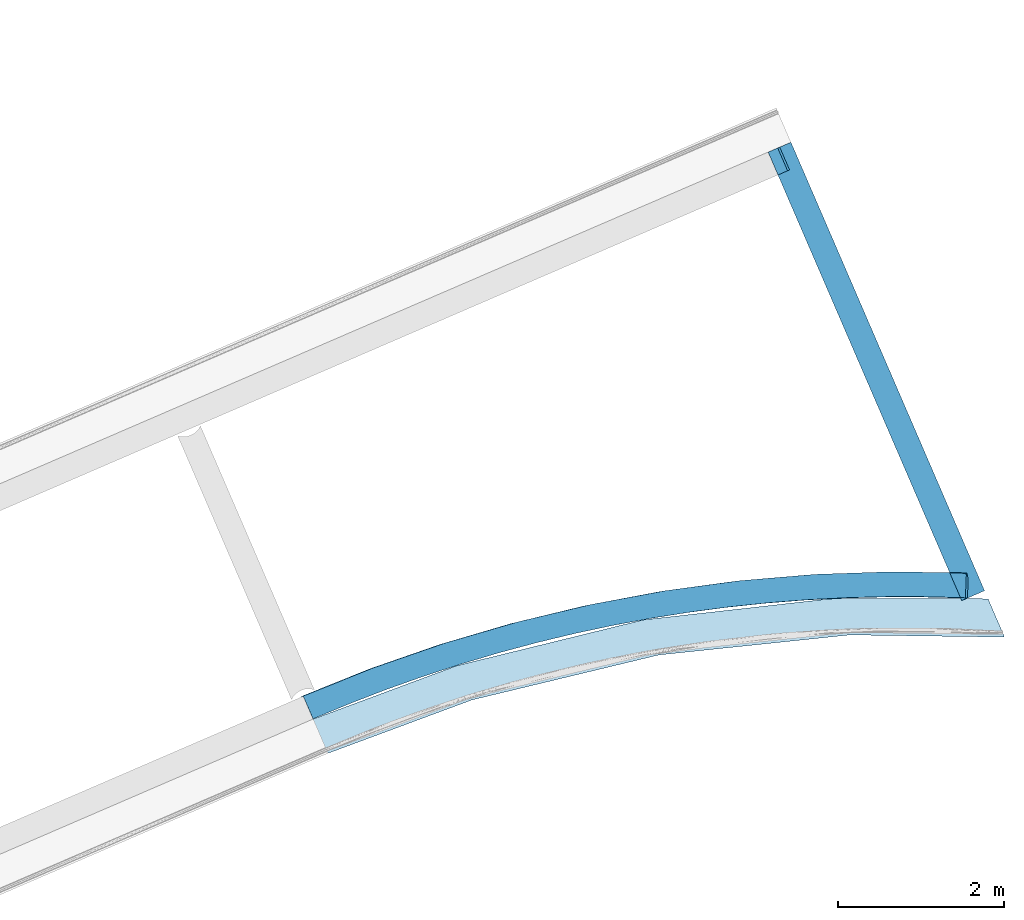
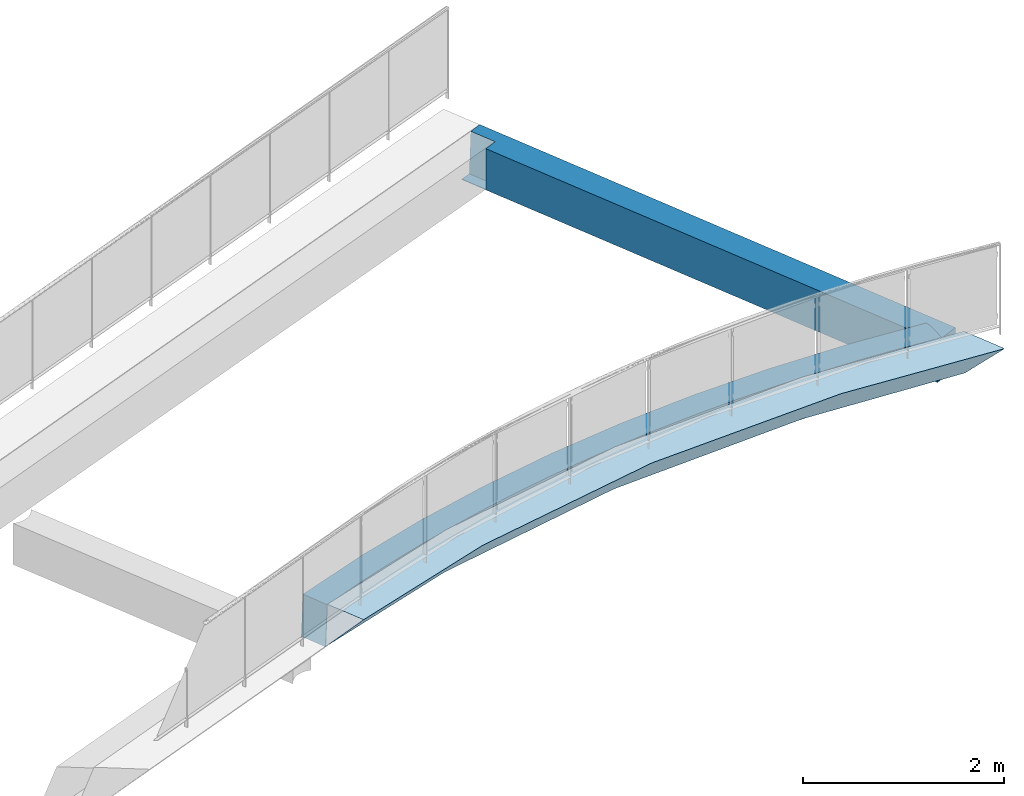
# One storey, part 24 of 24: 2 beams, 1 slab.
"""IFC4 building model written with IfcOpenShell, lengths in metres."""

from ifc_helpers import new_model, entity, si_unit, converted_unit, derived_unit, direction, frame, origin, place, context, subcontext, project, spatial, polygons, source, transform, mapped, material, type_object, type_shapes, element, save


model = new_model("IFC4")

# Units and contexts
model_context = context("Model", 3, precision=1e-05, world=origin(), true_north=direction((6.12323399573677e-17, 1.0)))
body_context = subcontext(model_context, "Body", "Model", "MODEL_VIEW")
ifc_project = project(units=[si_unit("LENGTHUNIT", "METRE"), si_unit("AREAUNIT", "SQUARE_METRE"), si_unit("VOLUMEUNIT", "CUBIC_METRE"), converted_unit("PLANEANGLEUNIT", "DEGREE", entity("IfcPlaneAngleMeasure", 0.0174532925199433), si_unit("PLANEANGLEUNIT", "RADIAN"), dimensions=[0, 0, 0, 0, 0, 0, 0]), si_unit("MASSUNIT", "GRAM", prefix="KILO"), derived_unit("MOMENTOFINERTIAUNIT", [(si_unit("LENGTHUNIT", "METRE"), 4)]), derived_unit("LINEARFORCEUNIT", [(si_unit("MASSUNIT", "GRAM", prefix="KILO"), 1), (si_unit("TIMEUNIT", "SECOND"), -2)]), derived_unit("WARPINGCONSTANTUNIT", [(si_unit("LENGTHUNIT", "METRE"), 6)]), derived_unit("THERMALTRANSMITTANCEUNIT", [(si_unit("MASSUNIT", "GRAM", prefix="KILO"), 1), (si_unit("THERMODYNAMICTEMPERATUREUNIT", "KELVIN"), -1), (si_unit("TIMEUNIT", "SECOND"), -3)]), derived_unit("USERDEFINED", [(si_unit("MASSUNIT", "GRAM", prefix="KILO"), 1), (si_unit("TIMEUNIT", "SECOND"), -2), (si_unit("THERMODYNAMICTEMPERATUREUNIT", "KELVIN"), -1)]), derived_unit("THERMALRESISTANCEUNIT", [(si_unit("MASSUNIT", "GRAM", prefix="KILO"), -1), (si_unit("TIMEUNIT", "SECOND"), 3), (si_unit("THERMODYNAMICTEMPERATUREUNIT", "KELVIN"), 1)])], contexts=[model_context])

# Site, building, storey
site_placement = place(None, origin())
site = spatial("IfcSite", under=ifc_project, at=site_placement, Name="Default", CompositionType="ELEMENT")
building_placement = place(site_placement, frame((12.6613425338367, -82.5732315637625, 317.15), z_axis=(0.0, 0.0, 1.0), x_axis=(-0.396377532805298, 0.918087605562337, 0.0)))
building = spatial("IfcBuilding", under=site, at=building_placement, Name="CESFAM Coyhaique", CompositionType="ELEMENT")
storey_placement = place(building_placement, frame((0.0, 0.0, 4.20000000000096)))
storey = spatial("IfcBuildingStorey", under=building, at=storey_placement, Name="Nivel 2", CompositionType="ELEMENT", Elevation=4.20000000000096)

# Beams
ifc_material = material(Name="HA")
beam_type_1 = type_object("IfcBeamType", Name="M_Concrete-Rectangular Beam:300 x 500mm", PredefinedType="BEAM", material=ifc_material)
shared_shape_1 = source(origin(), body_context, "Body", "Tessellation", [
    polygons([(0.271861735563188, 0.00159527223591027, 0.500951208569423), (0.201106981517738, 0.0356736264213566, 0.501838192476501), (0.00159527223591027, 0.131766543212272, 0.504339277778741), (0.0016235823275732, 0.131890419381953, 0.501838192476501), (0.00724754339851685, 0.156499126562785, 0.00498334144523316), (0.258136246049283, 0.0356609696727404, 0.00183819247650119), (0.277514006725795, 0.0263278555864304, 0.00159527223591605), (0.277511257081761, 0.0263158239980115, 0.00183819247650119), (0.275749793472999, 0.0096613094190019, 0.501394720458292), (0.279634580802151, 0.0177308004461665, 0.501838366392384), (0.654299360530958, 0.848842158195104, 0.547243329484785), (0.987095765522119, 1.69756937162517, 0.593046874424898), (1.27719778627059, 2.56180658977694, 0.639135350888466), (1.52388696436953, 3.4394134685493, 0.68539461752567), (1.72655235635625, 4.32821655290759, 0.731710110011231), (1.88469204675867, 5.22601465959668, 0.777967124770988), (1.99791439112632, 6.13058432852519, 0.824051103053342), (2.06593898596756, 7.03968532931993, 0.869847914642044), (2.08859736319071, 7.95106620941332, 0.915244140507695), (1.78861653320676, 7.95121663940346, 0.911856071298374), (1.78235450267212, 7.47543301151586, 0.888220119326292), (1.76351766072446, 6.99998743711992, 0.864458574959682), (1.73211914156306, 6.52521142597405, 0.840588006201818), (1.68818083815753, 6.05143602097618, 0.81662505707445), (1.63173338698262, 5.57899156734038, 0.792586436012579), (1.56281614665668, 5.10820748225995, 0.768488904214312), (1.48147717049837, 4.6394120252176, 0.744349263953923), (1.38777317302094, 4.17293206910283, 0.720184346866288), (1.28176949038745, 3.70909287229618, 0.696011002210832), (1.16354003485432, 3.24821785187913, 0.671846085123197), (1.03316724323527, 2.79062835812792, 0.647706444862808), (0.890742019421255, 2.3366434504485, 0.623608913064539), (0.73636367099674, 1.88657967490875, 0.599570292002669), (0.570139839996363, 1.4407508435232, 0.5756073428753), (0.392186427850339, 0.999467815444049, 0.551736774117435), (0.202627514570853, 0.563038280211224, 0.527975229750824), (1.79426880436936, 7.97594922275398, 0.412500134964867), (1.7880946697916, 7.50350856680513, 0.389030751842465), (1.76952178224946, 7.03139894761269, 0.365437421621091), (1.73856291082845, 6.55994492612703, 0.341736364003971), (1.69523934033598, 6.08947062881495, 0.31794387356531), (1.63958085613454, 5.62029950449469, 0.294076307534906), (1.57162572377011, 5.15275410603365, 0.270150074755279), (1.4914206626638, 4.68715586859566, 0.246181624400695), (1.39902081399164, 4.22382488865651, 0.222187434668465), (1.29448970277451, 3.76307970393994, 0.19818400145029), (1.17789919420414, 3.30523707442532, 0.174187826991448), (1.04932944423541, 2.85061176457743, 0.15021540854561), (0.908868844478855, 2.39951632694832, 0.12628322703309), (0.756613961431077, 1.95226088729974, 0.102407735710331), (0.592669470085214, 1.50915293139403, 0.0786053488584), (0.417148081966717, 1.07049709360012, 0.0548924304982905), (0.230170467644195, 0.636594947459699, 0.0312852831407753), (0.0318661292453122, 0.207746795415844, 0.00780024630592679), (0.019578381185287, 0.182115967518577, 0.00639169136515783), (2.09424963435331, 7.97579879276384, 0.415888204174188), (2.07259142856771, 7.08472361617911, 0.371509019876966), (2.00756488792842, 6.1957800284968, 0.326744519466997), (1.89932399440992, 5.31107245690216, 0.28170067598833), (1.74812502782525, 4.43269529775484, 0.236484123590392), (1.55432595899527, 3.56272795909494, 0.191201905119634), (1.3183856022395, 2.703229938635, 0.145961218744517), (1.04086252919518, 1.85623594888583, 0.100869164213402), (0.722413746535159, 1.02375110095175, 0.0560324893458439), (0.363800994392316, 0.207763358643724, 0.011558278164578), (0.32195896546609, 0.119140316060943, 0.0066952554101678), (0.279644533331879, 0.0307465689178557, 0.0018382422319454), (0.278579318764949, 0.0285369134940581, 0.00171674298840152), (1.95705717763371, 7.72347950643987, 0.401838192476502), (1.82142152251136, 7.7544770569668, 0.401838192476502), (1.86411758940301, 7.73467655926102, 0.401340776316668), (1.90999862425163, 7.7241911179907, 0.401340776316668), (1.91000210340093, 7.72419069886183, 0.401838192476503), (1.8641194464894, 7.73467592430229, 0.401838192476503), (1.92447770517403, 7.72397216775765, 0.401493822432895), (1.92438603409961, 7.72397329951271, 0.401838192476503), (1.88705810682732, 7.72943383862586, 0.401340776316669), (1.88706077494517, 7.72943331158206, 0.401838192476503), (1.87559011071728, 7.73205461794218, 0.401838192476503), (1.87558784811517, 7.73205519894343, 0.401340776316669), (1.89852836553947, 7.72681247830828, 0.401340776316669), (1.89853143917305, 7.72681200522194, 0.401838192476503), (1.89279610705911, 7.728122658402, 0.401838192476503), (1.8927932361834, 7.72812315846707, 0.401340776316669), (1.91723816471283, 7.72408164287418, 0.401417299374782), (1.91719406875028, 7.72408199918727, 0.401838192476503), (1.91359808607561, 7.72413634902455, 0.401838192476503), (1.91361839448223, 7.72413638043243, 0.401379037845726), (1.88132544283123, 7.73074396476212, 0.401838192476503), (1.88132297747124, 7.73074451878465, 0.401340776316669), (1.88419054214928, 7.73008917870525, 0.401340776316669), (1.86985477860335, 7.73336527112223, 0.401838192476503), (1.86985271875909, 7.73336587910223, 0.401340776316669), (1.87272028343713, 7.73271053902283, 0.401340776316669), (1.90426677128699, 7.72550135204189, 0.401838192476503), (1.90426349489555, 7.72550179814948, 0.401340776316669), (1.90713105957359, 7.72484645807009, 0.401340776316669), (1.92079005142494, 7.72402764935, 0.401838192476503), (1.92085793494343, 7.72402690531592, 0.401455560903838), (1.92266782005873, 7.72399953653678, 0.401474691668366), (1.89566080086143, 7.72746781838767, 0.401340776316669), (1.89566377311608, 7.72746733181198, 0.401838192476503), (1.88992567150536, 7.72877849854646, 0.401340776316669), (1.88992844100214, 7.72877798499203, 0.401838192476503), (1.87845541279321, 7.73139985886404, 0.401340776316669), (1.87845777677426, 7.73139929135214, 0.401838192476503), (1.86698515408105, 7.73402121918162, 0.401340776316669), (1.86698711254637, 7.73402059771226, 0.401838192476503), (1.90139593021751, 7.72615713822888, 0.401340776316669), (1.90139910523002, 7.72615667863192, 0.401838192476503), (1.85098076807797, 7.74076882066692, 0.401493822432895), (1.85106398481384, 7.74073038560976, 0.401838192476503), (1.8362427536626, 7.74760372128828, 0.401838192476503), (1.83620114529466, 7.74762293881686, 0.401666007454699), (1.84359095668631, 7.74419587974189, 0.401579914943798), (1.84365336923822, 7.74416705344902, 0.401838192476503), (1.83994806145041, 7.74588538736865, 0.401838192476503), (1.83989605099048, 7.74590940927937, 0.401622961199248), (1.85759171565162, 7.73770315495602, 0.401838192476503), (1.85754917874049, 7.73772268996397, 0.401417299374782), (1.86083338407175, 7.73619962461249, 0.401379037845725), (1.86085558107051, 7.73618953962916, 0.401838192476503), (1.84728586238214, 7.74248235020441, 0.401536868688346), (1.84735867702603, 7.74244871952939, 0.401838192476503), (1.84550602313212, 7.7433078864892, 0.401838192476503), (1.84543840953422, 7.74333911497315, 0.401558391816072), (1.83804859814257, 7.74676617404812, 0.401644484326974), (1.8380954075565, 7.74674455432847, 0.401838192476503), (1.83716908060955, 7.74717413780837, 0.401838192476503), (1.85432785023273, 7.73921677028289, 0.401838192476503), (1.85426497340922, 7.73924575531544, 0.401455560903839), (1.85590707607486, 7.73848422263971, 0.401436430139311), (1.8417435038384, 7.74505264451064, 0.401601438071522), (1.84180071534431, 7.74502622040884, 0.401838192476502), (1.84087438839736, 7.74545580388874, 0.401838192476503), (1.84921133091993, 7.74158955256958, 0.401838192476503), (1.84913331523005, 7.74162558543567, 0.40151534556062), (1.94072160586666, 7.7237264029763, 0.401838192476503), (1.94076744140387, 7.72372583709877, 0.401666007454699), (1.94891230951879, 7.72360267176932, 0.401752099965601), (1.94888939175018, 7.72360295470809, 0.401838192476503), (1.93255381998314, 7.7238498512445, 0.401838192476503), (1.93262257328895, 7.72384900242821, 0.401579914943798), (1.93669500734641, 7.72378741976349, 0.401622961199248), (1.9366377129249, 7.7237881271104, 0.401838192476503), (1.94483987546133, 7.72366425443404, 0.40170905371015), (1.94480549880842, 7.72366467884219, 0.401838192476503), (1.94276355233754, 7.72369554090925, 0.401838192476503), (1.9428036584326, 7.72369504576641, 0.401687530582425), (1.94687609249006, 7.72363346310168, 0.401730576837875), (1.9468474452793, 7.72363381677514, 0.401838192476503), (1.94582647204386, 7.72364924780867, 0.401838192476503), (1.9458579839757, 7.72364885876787, 0.401719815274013), (1.92855013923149, 7.72391058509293, 0.401536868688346), (1.92846992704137, 7.72391157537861, 0.401838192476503), (1.92642798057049, 7.72394243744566, 0.401838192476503), (1.93873122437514, 7.72375662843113, 0.401644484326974), (1.93867965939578, 7.72375726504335, 0.401838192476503), (1.93765868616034, 7.72377269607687, 0.401838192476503), (1.93459576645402, 7.72381898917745, 0.401838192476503), (1.93465879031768, 7.72381821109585, 0.401601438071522), (1.93567689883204, 7.72380281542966, 0.401612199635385), (1.93058635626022, 7.72387979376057, 0.401558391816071), (1.93051187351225, 7.72388071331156, 0.401838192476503), (1.92949090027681, 7.72389614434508, 0.401838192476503), (1.8841931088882, 7.73008863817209, 0.401838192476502), (1.87272244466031, 7.7327099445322, 0.401838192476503), (1.90713443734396, 7.72484602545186, 0.401838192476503), (1.82883213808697, 7.75104038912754, 0.401838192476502), (1.82881133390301, 7.75104999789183, 0.401752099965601), (1.83250623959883, 7.74933646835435, 0.40170905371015), (1.83253744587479, 7.74932205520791, 0.401838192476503), (1.83068479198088, 7.75018122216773, 0.401838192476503), (1.83065878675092, 7.75019323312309, 0.401730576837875), (1.83158251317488, 7.74976485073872, 0.401719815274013), (1.83161111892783, 7.74975163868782, 0.401838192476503), (1.83439009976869, 7.7484628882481, 0.401838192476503), (1.83435369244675, 7.74847970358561, 0.401687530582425), (1.8352774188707, 7.74805132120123, 0.401676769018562), (1.95297328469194, 7.72354123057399, 0.401838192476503), (1.95298474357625, 7.7235410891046, 0.401795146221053), (1.95502096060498, 7.72351029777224, 0.401816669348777), (1.95501523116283, 7.72351036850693, 0.401838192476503), (1.95093133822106, 7.72357209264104, 0.401838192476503), (1.95094852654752, 7.72357188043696, 0.401773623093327), (1.95196663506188, 7.72355648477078, 0.40178438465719), (1.95195231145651, 7.72355666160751, 0.401838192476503), (1.92651392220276, 7.72394137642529, 0.40151534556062), (1.82512683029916, 7.75275872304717, 0.401838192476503), (1.82511642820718, 7.75276352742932, 0.401795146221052), (1.82696388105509, 7.75190676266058, 0.401773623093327), (1.82697948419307, 7.75189955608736, 0.401838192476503), (1.82326897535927, 7.75362029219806, 0.401816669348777), (1.82327417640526, 7.75361789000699, 0.401838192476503), (1.82234784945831, 7.7540474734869, 0.401838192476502), (1.82234524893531, 7.75404867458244, 0.40182743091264)], [[[1, 2, 3, 4, 5, 6, 7, 8]], [[12, 13, 14, 15, 16, 17, 18, 19, 20, 21, 22, 23, 24, 25, 26, 27, 28, 29, 30, 31, 32, 33, 34, 35, 36, 3, 2, 1, 9, 10, 11]], [[22, 21, 39]], [[40, 23, 22]], [[38, 21, 20]], [[44, 27, 26]], [[25, 24, 42]], [[26, 25, 43]], [[41, 24, 23]], [[27, 45, 28]], [[39, 21, 38]], [[22, 39, 40]], [[23, 40, 41]], [[20, 37, 38]], [[41, 42, 24]], [[43, 25, 42]], [[26, 43, 44]], [[27, 44, 45]], [[28, 45, 46]], [[46, 29, 28]], [[31, 49, 32]], [[29, 47, 30]], [[48, 31, 30]], [[33, 32, 50]], [[4, 3, 36]], [[35, 34, 52]], [[35, 53, 36]], [[51, 34, 33]], [[4, 36, 54]], [[48, 30, 47]], [[31, 48, 49]], [[49, 50, 32]], [[33, 50, 51]], [[51, 52, 34]], [[53, 35, 52]], [[36, 53, 54]], [[4, 54, 55]], [[55, 5, 4]], [[46, 47, 29]], [[64, 65, 66, 67, 68, 7, 6, 5, 55, 54, 53, 52, 51, 50, 49, 48, 47, 46, 45, 44, 43, 42, 41, 40, 39, 38, 37, 56, 57, 58, 59, 60, 61, 62, 63], [69, 70, 196, 193, 190, 191, 170, 174, 175, 171, 178, 179, 114, 127, 118, 133, 115, 126, 123, 137, 111, 131, 132, 120, 121, 71, 107, 93, 94, 80, 105, 90, 91, 77, 103, 84, 101, 81, 109, 96, 97, 72, 88, 85, 99, 100, 75, 188, 154, 163, 143, 161, 162, 144, 157, 139, 149, 146, 153, 150, 140, 185, 186, 181, 182]], [[58, 18, 17]], [[19, 18, 57]], [[60, 16, 15]], [[17, 16, 59]], [[61, 15, 14]], [[57, 56, 19]], [[57, 18, 58]], [[17, 59, 58]], [[16, 60, 59]], [[61, 60, 15]], [[14, 62, 61]], [[14, 13, 62]], [[12, 63, 13]], [[11, 64, 12]], [[9, 1, 8]], [[11, 10, 65]], [[8, 10, 9]], [[10, 8, 66]], [[12, 64, 63]], [[11, 65, 64]], [[10, 66, 65]], [[8, 67, 66]], [[68, 67, 8]], [[8, 7, 68]], [[13, 63, 62]], [[37, 20, 19, 56]], [[168, 95, 110, 82, 102, 83, 104, 78, 166, 89, 106, 79, 167, 92, 108, 74, 122, 119, 130, 112, 136, 124, 125, 116, 134, 135, 117, 128, 129, 113, 177, 172, 176, 173, 169, 192, 189, 194, 195, 70, 69, 183, 180, 187, 184, 141, 151, 152, 147, 148, 138, 158, 159, 145, 160, 142, 164, 165, 155, 156, 76, 98, 86, 87, 73]], [[117, 135, 134, 116, 125, 124, 136, 112, 130, 119, 122, 74, 71, 121, 120, 132, 131, 111, 137, 123, 126, 115, 133, 118, 127, 114, 179, 178, 171, 175, 174, 170, 191, 190, 193, 196, 70, 195, 194, 189, 192, 169, 173, 176, 172, 177, 113, 129, 128]], [[93, 108, 92]], [[84, 104, 83]], [[149, 139, 157, 144, 162, 161, 143, 163, 154, 188, 75, 100, 99, 85, 88, 72, 73, 87, 86, 98, 76, 156, 155, 165, 164, 142, 160, 145, 159, 158, 138, 148, 147, 152, 151, 141, 184, 187, 180, 183, 69, 182, 181, 186, 185, 140, 150, 153, 146]], [[95, 96, 110]], [[73, 72, 168]], [[89, 90, 106]], [[79, 80, 167]], [[82, 81, 102]], [[102, 101, 83]], [[103, 78, 104]], [[89, 91, 90]], [[105, 79, 106]], [[91, 166, 77]], [[92, 94, 93]], [[107, 74, 108]], [[94, 167, 80]], [[95, 97, 96]], [[109, 82, 110]], [[97, 168, 72]], [[101, 84, 83]], [[101, 102, 81]], [[103, 77, 78]], [[103, 104, 84]], [[105, 80, 79]], [[105, 106, 90]], [[107, 71, 74]], [[107, 108, 93]], [[109, 81, 82]], [[109, 110, 96]], [[78, 77, 166]], [[91, 89, 166]], [[94, 92, 167]], [[97, 95, 168]]], closed=True),
])
type_shapes(beam_type_1, [shared_shape_1])
beam_1_placement = place(storey_placement, frame((15.6319421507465, -36.9448963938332, -1.4518381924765)))
element("IfcBeam", 1, at=beam_1_placement, inside=storey, type_object=beam_type_1, Name="M_Concrete-Rectangular Beam:300 x 500mm", ObjectType="M_Concrete-Rectangular Beam:300 x 500mm", PredefinedType="BEAM", context=body_context, shape_type="MappedRepresentation", body=[
    mapped(shared_shape_1, transform((0.0, 0.0, 0.0), scale=1.0)),
])
beam_type_2 = type_object("IfcBeamType", Name="M_Concrete-Rectangular Beam:300 x 500mm", PredefinedType="BEAM", material=ifc_material)
shared_shape_2 = source(origin(), body_context, "Body", "Tessellation", [
    polygons([(5.88815811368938, 0.0, 0.501595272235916), (5.88815811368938, 0.0, 0.00159527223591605), (5.88815811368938, 0.300000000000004, 0.00159527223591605), (5.88815811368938, 0.300000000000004, 0.0090609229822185), (5.88815811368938, 0.173531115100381, 0.00247487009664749), (5.88815811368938, 0.147538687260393, 0.501595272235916), (0.0, 0.300000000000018, 0.501595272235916), (0.0, 0.300000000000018, 0.00159527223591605), (0.0, 1.4210854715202e-14, 0.00159527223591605), (0.0, 1.4210854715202e-14, 0.501595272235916), (5.58815811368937, 0.147538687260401, 0.501595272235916), (5.58815811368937, 0.300000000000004, 0.501595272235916), (0.370838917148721, 0.300000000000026, 0.501595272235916), (0.326130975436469, 0.204861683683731, 0.501595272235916), (0.280879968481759, 0.109980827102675, 0.501595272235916), (0.202353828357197, 0.127926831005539, 0.501595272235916), (0.00287042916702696, 0.224143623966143, 0.501595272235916), (0.0210737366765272, 0.262050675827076, 0.501595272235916), (0.0391888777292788, 0.300000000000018, 0.501595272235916), (0.25938309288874, 0.127914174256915, 0.00159527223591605), (0.278758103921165, 0.118569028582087, 0.00159527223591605), (0.279824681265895, 0.120783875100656, 0.00159527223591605), (0.280890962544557, 0.122998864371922, 0.00159527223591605), (0.0361560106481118, 0.300000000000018, 0.254532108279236), (0.0331129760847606, 0.300000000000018, 0.00755732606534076), (0.365040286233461, 0.300000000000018, 0.0113144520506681), (0.367944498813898, 0.300000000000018, 0.256413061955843), (5.58815811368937, 0.300000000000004, 0.0090609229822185), (0.27310858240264, 0.0938484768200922, 0.500708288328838), (0.00849439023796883, 0.248752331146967, 0.00474042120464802), (0.0208240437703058, 0.274366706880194, 0.00614863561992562), (0.276996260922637, 0.101913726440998, 0.501151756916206), (0.323203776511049, 0.211389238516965, 0.00645210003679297), (5.58815811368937, 0.173531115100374, 0.00247487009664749)], [[[5, 6, 1, 2, 3, 4]], [[28, 12, 11, 34]], [[8, 9, 10, 7]], [[11, 12, 13, 14, 15, 16, 17, 18, 19, 7, 10, 1, 6]], [[2, 1, 10, 9]], [[2, 9, 8, 3], [23, 20, 21, 22]], [[3, 8, 7, 19, 24, 25, 26, 27, 13, 12, 28, 4]], [[20, 30, 17, 16, 29, 21]], [[24, 31, 25]], [[18, 24, 19]], [[18, 17, 31]], [[30, 31, 17]], [[18, 31, 24]], [[27, 14, 13]], [[26, 33, 27]], [[14, 27, 33]], [[33, 15, 14]], [[32, 15, 23]], [[29, 32, 22]], [[32, 23, 22]], [[29, 22, 21]], [[33, 23, 15]], [[5, 34, 11, 6]], [[28, 34, 5, 4]], [[20, 23, 33, 26, 25, 31, 30]], [[29, 16, 15, 32]]], closed=True),
])
type_shapes(beam_type_2, [shared_shape_2])
beam_2_placement = place(storey_placement, frame((15.6306953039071, -37.0371495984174, -1.45159527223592)))
element("IfcBeam", 2, at=beam_2_placement, inside=storey, type_object=beam_type_2, Name="M_Concrete-Rectangular Beam:300 x 500mm", ObjectType="M_Concrete-Rectangular Beam:300 x 500mm", PredefinedType="BEAM", context=body_context, shape_type="MappedRepresentation", body=[
    mapped(shared_shape_2, transform((0.0, 0.0, 0.0), scale=1.0)),
])

# Slab
slab_type = type_object("IfcSlabType", Name="Borde02:Borde02", PredefinedType="FLOOR", material=ifc_material)
slab_placement = place(storey_placement, frame((0.0, 0.0, -4.20000000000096)))
element("IfcSlab", 3, at=slab_placement, inside=storey, type_object=slab_type, Name="Borde02:Borde02", ObjectType="Borde02:Borde02", PredefinedType="FLOOR", context=body_context, shape_type="Tessellation", body=[
    polygons([(15.0403395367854, -37.0371495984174, 3.24979562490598), (15.0425614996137, -37.0371495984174, 3.22794711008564), (15.3036440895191, -37.0371495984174, 2.96206837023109), (15.5122553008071, -37.0371495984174, 2.74911437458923), (15.5187674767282, -37.0371495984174, 2.9994047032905), (15.5252691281, -37.0371495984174, 3.24979562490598), (16.9687848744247, -28.9893273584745, 3.67004745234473), (17.4187848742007, -28.989313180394, 3.67004819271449), (17.4187848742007, -28.9632390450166, 3.17072851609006), (15.0250878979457, -37.0293396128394, 3.250203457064), (17.323063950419, -30.8199576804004, 3.07377192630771), (16.9357690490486, -33.1109343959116, 2.95413867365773), (16.2572979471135, -35.3333413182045, 2.83808608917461), (15.784263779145, -35.3369414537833, 3.33857934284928), (16.476043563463, -33.1248440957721, 3.45409356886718), (16.8711196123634, -30.8412127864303, 3.57334324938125), (15.4959052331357, -35.9797667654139, 3.30501144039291), (17.1294164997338, -31.965446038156, 3.01395529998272), (16.6735815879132, -31.9830284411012, 3.51371840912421), (16.130153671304, -34.2308927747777, 3.39633645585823), (16.596533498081, -34.2221378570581, 2.89611238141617), (16.9199522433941, -29.9152700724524, 3.621695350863), (17.3709244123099, -29.8915983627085, 3.12225022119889), (15.8847766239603, -36.185245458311, 2.79360023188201), (17.3237283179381, -30.8395961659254, 3.57342766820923), (16.9391094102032, -33.1228369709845, 3.45419837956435), (16.2652797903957, -35.3382149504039, 3.33851284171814), (15.9934232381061, -35.9623498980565, 3.3059209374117), (15.9819497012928, -35.9630242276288, 2.80520447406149), (17.1314188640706, -31.9812165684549, 3.51381302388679), (16.6021946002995, -34.2305259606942, 3.39635561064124), (17.3712565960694, -29.9144546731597, 3.62173793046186)], [[[2, 3, 4, 5, 6, 1]], [[7, 8, 9]], [[2, 1, 10]], [[11, 16, 22]], [[15, 21, 20]], [[2, 10, 17]], [[15, 19, 12]], [[12, 19, 18]], [[11, 22, 23]], [[18, 19, 16]], [[7, 23, 22]], [[20, 21, 13]], [[16, 11, 18]], [[14, 13, 29, 24]], [[13, 14, 20]], [[17, 24, 3]], [[24, 4, 3]], [[3, 2, 17]], [[14, 24, 17]], [[12, 21, 15]], [[9, 23, 7]], [[18, 26, 12]], [[12, 26, 31]], [[32, 25, 23]], [[9, 8, 32]], [[13, 27, 28]], [[27, 21, 31]], [[11, 30, 18]], [[5, 29, 28]], [[26, 18, 30]], [[5, 28, 6]], [[11, 25, 30]], [[31, 21, 12]], [[5, 4, 24, 29]], [[29, 13, 28]], [[9, 32, 23]], [[27, 13, 21]], [[25, 11, 23]], [[14, 17, 10, 1, 6, 28, 27, 31, 26, 30, 25, 32, 8, 7, 22, 16, 19, 15, 20]]], closed=True),
])

save(model, "model.ifc")
